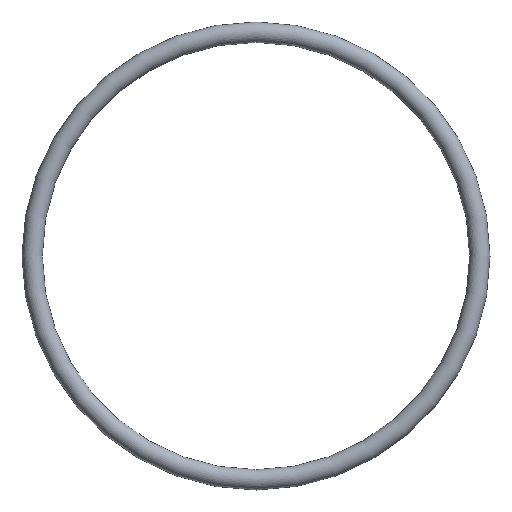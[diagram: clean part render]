
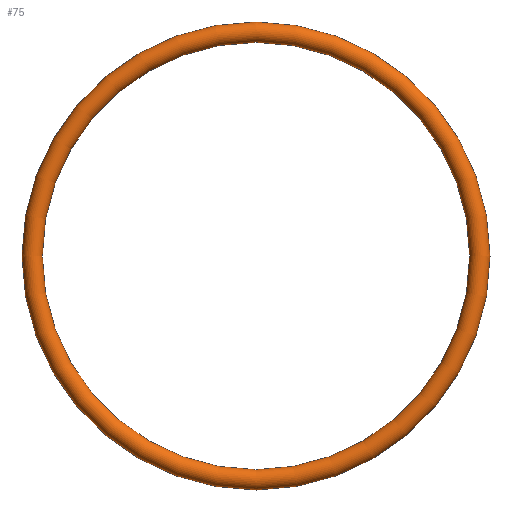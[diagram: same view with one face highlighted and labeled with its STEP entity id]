
A CAD part, front view. The second image highlights one B-rep face of the part: STEP entity #75.
In plain terms, the highlighted toroidal (fillet/blend) face has major radius 22 mm and minor radius 1 mm.
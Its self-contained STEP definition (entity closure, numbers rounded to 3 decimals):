
#75 = ADVANCED_FACE( '', ( #77 ), #78, .T. );
#77 = FACE_BOUND( '', #79, .T. );
#78 = TOROIDAL_SURFACE( '', #80, 22., 1. );
#79 = VERTEX_LOOP( '', #81 );
#80 = AXIS2_PLACEMENT_3D( '', #82, #83, #84 );
#81 = VERTEX_POINT( '', #85 );
#82 = CARTESIAN_POINT( '', ( 0., 0., 0. ) );
#83 = DIRECTION( '', ( 0., -1., 0. ) );
#84 = DIRECTION( '', ( 0., 0., -1. ) );
#85 = CARTESIAN_POINT( '', ( 0., 0., -23. ) );
